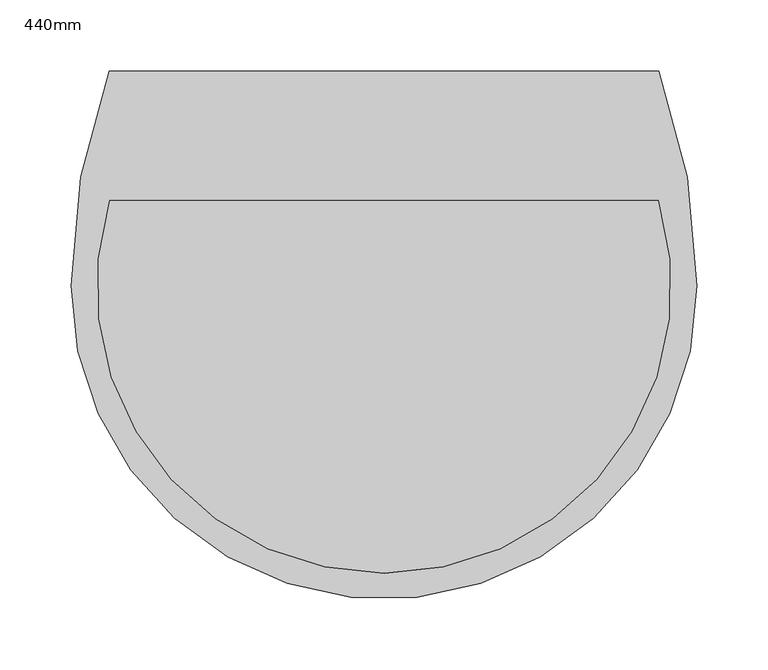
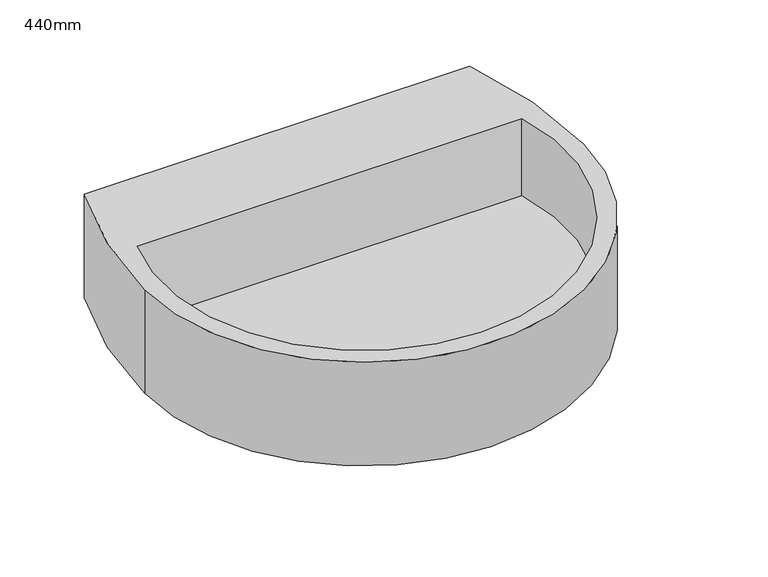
"""IFC4 building model written with IfcOpenShell, lengths in millimetres: flow terminal geometry, Sanitary_Sinks_Zeppelin-Rental-GmbH_Round_440 : 440mm."""

from ifc_helpers import new_model, si_unit, frame, origin, place, context, project, spatial, polyline, circle_curve, source, transform, mapped, element, save
from ifc_brep_helpers import plane_surface, cylinder_surface, revolved_surface, advanced_brep


def flow_terminal_440mm_79f1e1fa(model_context):
    return source(origin(), model_context, "Body", "AdvancedBrep", [
        advanced_brep(
        [(345.0, -203.352108, 850.0), (318.1495364, -52.0, 850.0), (-68.1495364, -52.0, 850.0), (-95.0, -203.352108, 850.0), (317.7947473, -143.0679028, 850.0), (-67.7947473, -143.0679028, 850.0), (345.0, -203.352108, 740.0), (-95.0, -203.352108, 740.0), (-68.1495364, -52.0, 740.0), (318.1495364, -52.0, 740.0), (317.7947473, -143.0679028, 768.1609063), (-67.7947473, -143.0679028, 768.1609063)],
        [
            (0, 1, circle_curve(frame((-95.0, -203.352108, 850.0), z_axis=(0.0, 0.0, 1.0), x_axis=(1.0, 0.0, 0.0)), 440.0)),
            (1, 2),
            (2, 3, circle_curve(frame((345.0, -203.352108, 850.0), z_axis=(0.0, 0.0, 1.0), x_axis=(1.0, 0.0, 0.0)), 440.0)),
            (3, 0, circle_curve(frame((125.0, -203.352108, 850.0), z_axis=(0.0, 0.0, 1.0), x_axis=(1.0, 0.0, 0.0)), 220.0)),
            (4, 5, circle_curve(frame((125.0, -203.352108, 850.0), z_axis=(0.0, 0.0, -1.0), x_axis=(1.0, 0.0, 0.0)), 202.0)),
            (5, 4),
            (6, 7, circle_curve(frame((125.0, -203.352108, 740.0), z_axis=(0.0, 0.0, -1.0), x_axis=(1.0, 0.0, 0.0)), 220.0)),
            (7, 8, circle_curve(frame((345.0, -203.352108, 740.0), z_axis=(0.0, 0.0, -1.0), x_axis=(1.0, 0.0, 0.0)), 440.0)),
            (8, 9),
            (9, 6, circle_curve(frame((-95.0, -203.352108, 740.0), z_axis=(0.0, 0.0, -1.0), x_axis=(1.0, 0.0, 0.0)), 440.0)),
            (10, 11),
            (11, 10, circle_curve(frame((125.0, -203.352108, 768.1609063), z_axis=(0.0, 0.0, 1.0), x_axis=(1.0, 0.0, 0.0)), 202.0)),
            (0, 6),
            (9, 1),
            (8, 2),
            (7, 3),
            (11, 5),
            (4, 10),
        ],
        [
            plane_surface(frame((345.0, -203.352108, 850.0), z_axis=(0.0, 0.0, 1.0), x_axis=(0.0, 1.0, 0.0))),
            plane_surface(frame((345.0, -203.352108, 740.0), z_axis=(0.0, 0.0, -1.0), x_axis=(0.0, -1.0, 0.0))),
            plane_surface(frame((327.0, -203.352108, 768.1609063), z_axis=(0.0, 0.0, 1.0), x_axis=(0.0, -1.0, 0.0))),
            cylinder_surface(frame((-95.0, -203.352108, 740.0), z_axis=(0.0, 0.0, 1.0), x_axis=(1.0, 0.0, 0.0)), 440.0),
            plane_surface(frame((318.1495364, -52.0, 850.0), z_axis=(0.0, 1.0, 0.0), x_axis=(0.0, 0.0, -1.0))),
            cylinder_surface(frame((345.0, -203.352108, 740.0), z_axis=(0.0, 0.0, 1.0), x_axis=(1.0, 0.0, 0.0)), 440.0),
            cylinder_surface(frame((125.0, -203.352108, 740.0), z_axis=(0.0, 0.0, 1.0), x_axis=(1.0, 0.0, 0.0)), 220.0),
            revolved_surface(polyline([(327.0, -203.352108, 768.1609063), (327.0, -203.352108, 850.0)]), (125.0, -203.352108, 864.30159), (0.0, 0.0, -1.0)),
            plane_surface(frame((-67.7947473, -143.0679028, 768.1609063), z_axis=(0.0, -1.0, 0.0), x_axis=(0.0, 0.0, 1.0))),
        ],
        [
            (0, [[1, 2, 3, 4], [5, 6]]),
            (1, [[7, 8, 9, 10]]),
            (2, [[11, 12]]),
            (3, [[-1, 13, -10, 14]]),
            (4, [[-2, -14, -9, 15]]),
            (5, [[-3, -15, -8, 16]]),
            (6, [[-4, -16, -7, -13]]),
            (7, [[-12, 17, -5, 18]]),
            (8, [[-11, -18, -6, -17]]),
        ],
    ),
    ])


if __name__ == "__main__":
    model = new_model("IFC4")
    model_context = context("Model", 3, world=origin())
    ifc_project = project(units=[si_unit("LENGTHUNIT", "METRE", prefix="MILLI")], contexts=[model_context])
    site = spatial("IfcSite", under=ifc_project)
    building = spatial("IfcBuilding", under=site)
    placement = place(None, origin())
    flow_terminal_440mm_shape = flow_terminal_440mm_79f1e1fa(model_context)
    element("IfcFlowTerminal", 1, ObjectType="Sanitary_Sinks_Zeppelin-Rental-GmbH_Round_440 : 440mm", at=placement, inside=building, context=model_context, shape_type="MappedRepresentation", body=[
        mapped(flow_terminal_440mm_shape, transform((0.0, 0.0, 0.0), x_axis=(1.0, 0.0, 0.0), y_axis=(0.0, 1.0, 0.0), z_axis=(0.0, 0.0, 1.0))),
    ])
    save(model, "model.ifc")
